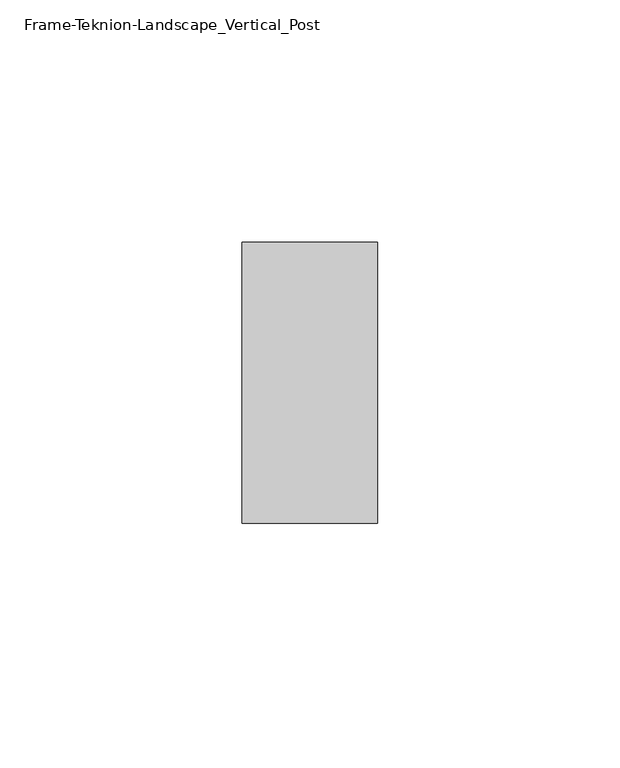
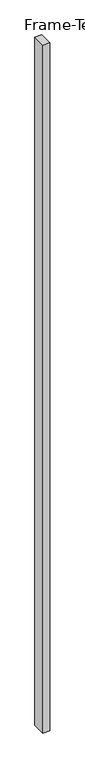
"""IFC4 building model written with IfcOpenShell, lengths in millimetres: proxy geometry, Frame-Teknion-Landscape_Vertical_Post : FLKV."""

from ifc_helpers import new_model, si_unit, origin, origin_with_axes, place, context, project, spatial, polyline, outline, extrude, source, transform, mapped, element, save


def frame_teknion_landscape_vertical_post_b621eeab(model_context):
    return source(origin(), model_context, "Body", "SweptSolid", [
        extrude(outline(polyline([(-13.9898437, -28.971875), (-13.9898437, 28.971875), (13.9898438, 28.971875), (13.9898438, -28.971875), (-13.9898437, -28.971875)])), origin_with_axes(), (0.0, 0.0, 1.0), 3016.25),
    ])


if __name__ == "__main__":
    model = new_model("IFC4")
    model_context = context("Model", 3, world=origin())
    ifc_project = project(units=[si_unit("LENGTHUNIT", "METRE", prefix="MILLI")], contexts=[model_context])
    site = spatial("IfcSite", under=ifc_project)
    building = spatial("IfcBuilding", under=site)
    placement = place(None, origin())
    frame_teknion_landscape_vertical_post_shape = frame_teknion_landscape_vertical_post_b621eeab(model_context)
    element("IfcBuildingElementProxy", 1, Name="Frame-Teknion-Landscape_Vertical_Post : FLKV", ObjectType="Frame-Teknion-Landscape_Vertical_Post : FLKV", at=placement, inside=building, context=model_context, shape_type="MappedRepresentation", body=[
        mapped(frame_teknion_landscape_vertical_post_shape, transform((0.0, 0.0, 0.0), x_axis=(1.0, 0.0, 0.0), y_axis=(0.0, 1.0, 0.0), z_axis=(0.0, 0.0, 1.0))),
    ])
    save(model, "model.ifc")
